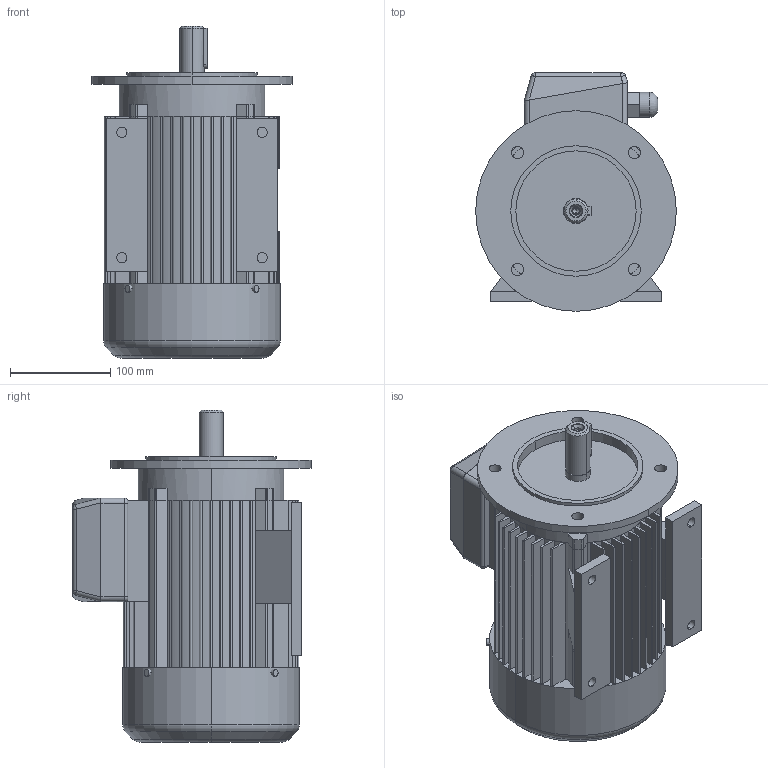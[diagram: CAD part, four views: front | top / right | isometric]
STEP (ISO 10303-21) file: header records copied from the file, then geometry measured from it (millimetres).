
FILE_DESCRIPTION (( 'STEP AP203' ), '1' );
FILE_NAME ('2SIEL90L2.STEP', '2012-10-26T11:55:41', ( 'INDUKTA' ), ( 'CANTONI MOTOR' ), 'SwSTEP 2.0', 'SolidWorks 2003064', '' );
FILE_SCHEMA (( 'CONFIG_CONTROL_DESIGN' ));
Length unit declared in the file: millimetre
Products named in the file (1): 2SIEL90L2
Bounding box: 200 x 238 x 331 mm (x, y, z)
Volume: 6519050.8 mm3; surface area: 557374.9 mm2
Topology: 13 solids, 13 shells, 399 faces, 1053 edges, 679 vertices
Faces by surface type: plane 188, cylinder 185, cone 12, torus 10, sphere 4
Entity records: 12469 total; most frequent: DIRECTION 2245, CARTESIAN_POINT 2187, ORIENTED_EDGE 2094, EDGE_CURVE 1047, AXIS2_PLACEMENT_3D 809, VERTEX_POINT 679, LINE 627, VECTOR 627
